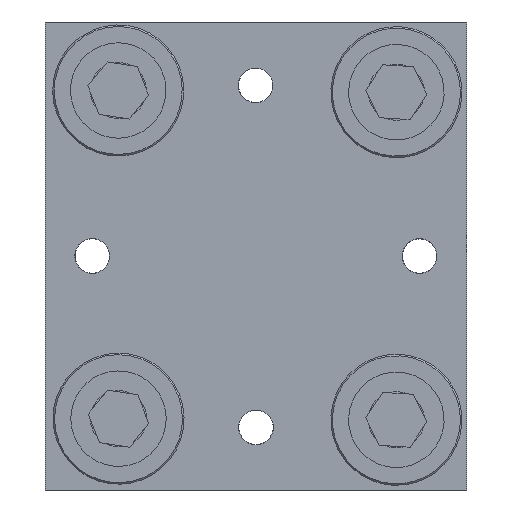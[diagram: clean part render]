
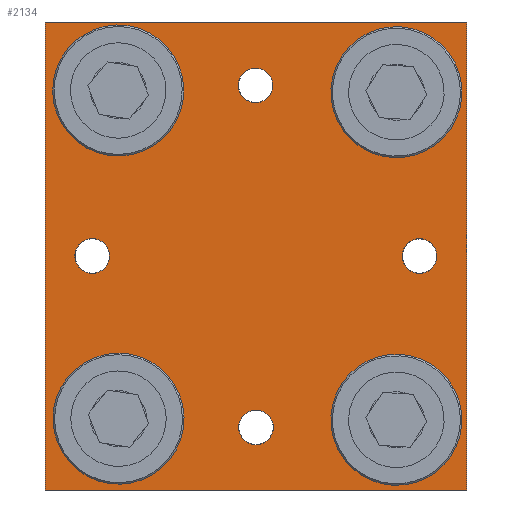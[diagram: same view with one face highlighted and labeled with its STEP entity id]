
A CAD part, front view. The second image highlights one B-rep face of the part: STEP entity #2134.
In plain terms, the highlighted planar face has unit normal (0, -1, 0).
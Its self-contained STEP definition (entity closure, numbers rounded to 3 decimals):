
#250=CIRCLE('',#2894,5.55);
#251=CIRCLE('',#2895,5.55);
#252=CIRCLE('',#2896,5.55);
#253=CIRCLE('',#2897,5.55);
#254=CIRCLE('',#2898,5.55);
#255=CIRCLE('',#2899,5.55);
#256=CIRCLE('',#2900,5.55);
#257=CIRCLE('',#2901,5.55);
#399=ORIENTED_EDGE('',*,*,#993,.T.);
#400=ORIENTED_EDGE('',*,*,#994,.T.);
#401=ORIENTED_EDGE('',*,*,#995,.T.);
#402=ORIENTED_EDGE('',*,*,#996,.T.);
#403=ORIENTED_EDGE('',*,*,#997,.T.);
#404=ORIENTED_EDGE('',*,*,#998,.T.);
#405=ORIENTED_EDGE('',*,*,#999,.T.);
#406=ORIENTED_EDGE('',*,*,#1000,.T.);
#407=ORIENTED_EDGE('',*,*,#983,.T.);
#408=ORIENTED_EDGE('',*,*,#987,.T.);
#409=ORIENTED_EDGE('',*,*,#990,.T.);
#410=ORIENTED_EDGE('',*,*,#992,.T.);
#983=EDGE_CURVE('',#1283,#1282,#1507,.T.);
#987=EDGE_CURVE('',#1282,#1285,#1511,.T.);
#990=EDGE_CURVE('',#1285,#1287,#1514,.T.);
#992=EDGE_CURVE('',#1287,#1283,#1516,.T.);
#993=EDGE_CURVE('',#1288,#1288,#250,.F.);
#994=EDGE_CURVE('',#1289,#1289,#251,.F.);
#995=EDGE_CURVE('',#1290,#1290,#252,.F.);
#996=EDGE_CURVE('',#1291,#1291,#253,.F.);
#997=EDGE_CURVE('',#1292,#1292,#254,.F.);
#998=EDGE_CURVE('',#1293,#1293,#255,.F.);
#999=EDGE_CURVE('',#1294,#1294,#256,.F.);
#1000=EDGE_CURVE('',#1295,#1295,#257,.F.);
#1282=VERTEX_POINT('',#3772);
#1283=VERTEX_POINT('',#3774);
#1285=VERTEX_POINT('',#3780);
#1287=VERTEX_POINT('',#3786);
#1288=VERTEX_POINT('',#3793);
#1289=VERTEX_POINT('',#3795);
#1290=VERTEX_POINT('',#3797);
#1291=VERTEX_POINT('',#3799);
#1292=VERTEX_POINT('',#3801);
#1293=VERTEX_POINT('',#3803);
#1294=VERTEX_POINT('',#3805);
#1295=VERTEX_POINT('',#3807);
#1507=LINE('',#3773,#1569);
#1511=LINE('',#3781,#1573);
#1514=LINE('',#3787,#1576);
#1516=LINE('',#3790,#1578);
#1569=VECTOR('',#3166,1000.);
#1573=VECTOR('',#3172,1000.);
#1576=VECTOR('',#3177,1000.);
#1578=VECTOR('',#3181,1000.);
#1633=EDGE_LOOP('',(#399));
#1634=EDGE_LOOP('',(#400));
#1635=EDGE_LOOP('',(#401));
#1636=EDGE_LOOP('',(#402));
#1637=EDGE_LOOP('',(#403));
#1638=EDGE_LOOP('',(#404));
#1639=EDGE_LOOP('',(#405));
#1640=EDGE_LOOP('',(#406));
#1641=EDGE_LOOP('',(#407,#408,#409,#410));
#1861=FACE_BOUND('',#1633,.T.);
#1862=FACE_BOUND('',#1634,.T.);
#1863=FACE_BOUND('',#1635,.T.);
#1864=FACE_BOUND('',#1636,.T.);
#1865=FACE_BOUND('',#1637,.T.);
#1866=FACE_BOUND('',#1638,.T.);
#1867=FACE_BOUND('',#1639,.T.);
#1868=FACE_BOUND('',#1640,.T.);
#1869=FACE_BOUND('',#1641,.T.);
#2089=PLANE('',#2893);
#2134=ADVANCED_FACE('',(#1861,#1862,#1863,#1864,#1865,#1866,#1867,#1868,
#1869),#2089,.T.);
#2893=AXIS2_PLACEMENT_3D('',#3791,#3182,#3183);
#2894=AXIS2_PLACEMENT_3D('',#3792,#3184,#3185);
#2895=AXIS2_PLACEMENT_3D('',#3794,#3186,#3187);
#2896=AXIS2_PLACEMENT_3D('',#3796,#3188,#3189);
#2897=AXIS2_PLACEMENT_3D('',#3798,#3190,#3191);
#2898=AXIS2_PLACEMENT_3D('',#3800,#3192,#3193);
#2899=AXIS2_PLACEMENT_3D('',#3802,#3194,#3195);
#2900=AXIS2_PLACEMENT_3D('',#3804,#3196,#3197);
#2901=AXIS2_PLACEMENT_3D('',#3806,#3198,#3199);
#3166=DIRECTION('',(1.,0.,0.));
#3172=DIRECTION('',(0.,0.,1.));
#3177=DIRECTION('',(-1.,0.,0.));
#3181=DIRECTION('',(0.,0.,-1.));
#3182=DIRECTION('',(0.,-1.,0.));
#3183=DIRECTION('',(0.,0.,-1.));
#3184=DIRECTION('',(0.,-1.,0.));
#3185=DIRECTION('',(0.,0.,-1.));
#3186=DIRECTION('',(0.,-1.,0.));
#3187=DIRECTION('',(0.,0.,-1.));
#3188=DIRECTION('',(0.,-1.,0.));
#3189=DIRECTION('',(0.,0.,-1.));
#3190=DIRECTION('',(0.,-1.,0.));
#3191=DIRECTION('',(0.,0.,-1.));
#3192=DIRECTION('',(0.,-1.,0.));
#3193=DIRECTION('',(0.,0.,-1.));
#3194=DIRECTION('',(0.,-1.,0.));
#3195=DIRECTION('',(0.,0.,-1.));
#3196=DIRECTION('',(0.,-1.,0.));
#3197=DIRECTION('',(0.,0.,-1.));
#3198=DIRECTION('',(0.,-1.,0.));
#3199=DIRECTION('',(0.,0.,-1.));
#3772=CARTESIAN_POINT('',(67.5,-12.25,-75.));
#3773=CARTESIAN_POINT('',(-67.5,-12.25,-75.));
#3774=CARTESIAN_POINT('',(-67.5,-12.25,-75.));
#3780=CARTESIAN_POINT('',(67.5,-12.25,75.));
#3781=CARTESIAN_POINT('',(67.5,-12.25,-75.));
#3786=CARTESIAN_POINT('',(-67.5,-12.25,75.));
#3787=CARTESIAN_POINT('',(67.5,-12.25,75.));
#3790=CARTESIAN_POINT('',(-67.5,-12.25,75.));
#3791=CARTESIAN_POINT('',(0.,-12.25,0.));
#3792=CARTESIAN_POINT('',(45.,-12.25,-52.5));
#3793=CARTESIAN_POINT('',(45.,-12.25,-58.05));
#3794=CARTESIAN_POINT('',(0.,-12.25,-54.941));
#3795=CARTESIAN_POINT('',(0.,-12.25,-60.491));
#3796=CARTESIAN_POINT('',(-45.,-12.25,-52.5));
#3797=CARTESIAN_POINT('',(-45.,-12.25,-58.05));
#3798=CARTESIAN_POINT('',(-52.495,-12.25,0.));
#3799=CARTESIAN_POINT('',(-52.495,-12.25,-5.55));
#3800=CARTESIAN_POINT('',(-45.,-12.25,52.5));
#3801=CARTESIAN_POINT('',(-45.,-12.25,46.95));
#3802=CARTESIAN_POINT('',(52.409,-12.25,-0.01));
#3803=CARTESIAN_POINT('',(52.409,-12.25,-5.56));
#3804=CARTESIAN_POINT('',(44.995,-12.25,52.501));
#3805=CARTESIAN_POINT('',(44.995,-12.25,46.951));
#3806=CARTESIAN_POINT('',(-0.119,-12.25,54.695));
#3807=CARTESIAN_POINT('',(-0.119,-12.25,49.145));
